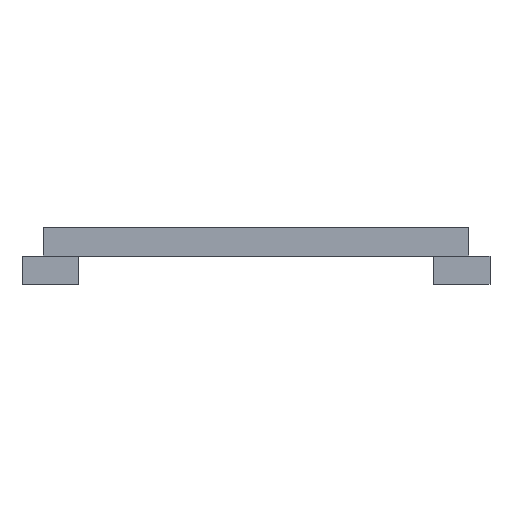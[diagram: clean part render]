
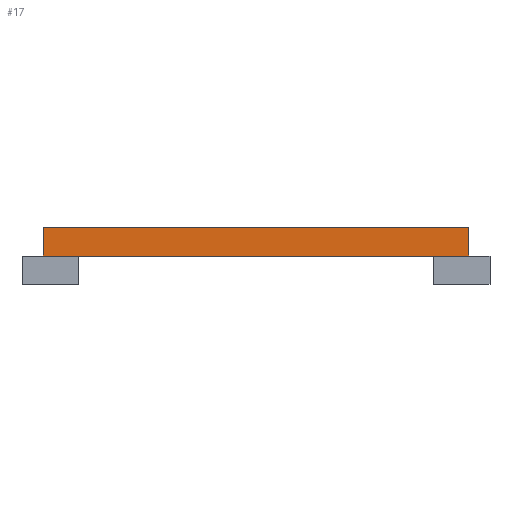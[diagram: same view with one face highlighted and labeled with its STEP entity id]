
A CAD part, left-side view. The second image highlights one B-rep face of the part: STEP entity #17.
In plain terms, the highlighted planar face has unit normal (-1, 0, 0).
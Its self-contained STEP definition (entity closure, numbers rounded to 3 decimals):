
#17 = ADVANCED_FACE('',(#18),#32,.F.);
#18 = FACE_BOUND('',#19,.F.);
#19 = EDGE_LOOP('',(#20,#55,#83,#111));
#20 = ORIENTED_EDGE('',*,*,#21,.F.);
#21 = EDGE_CURVE('',#22,#24,#26,.T.);
#22 = VERTEX_POINT('',#23);
#23 = CARTESIAN_POINT('',(0.,-60.,0.));
#24 = VERTEX_POINT('',#25);
#25 = CARTESIAN_POINT('',(0.,-60.,8.));
#26 = SURFACE_CURVE('',#27,(#31,#43),.PCURVE_S1.);
#27 = LINE('',#28,#29);
#28 = CARTESIAN_POINT('',(0.,-60.,0.));
#29 = VECTOR('',#30,1.);
#30 = DIRECTION('',(0.,0.,1.));
#31 = PCURVE('',#32,#37);
#32 = PLANE('',#33);
#33 = AXIS2_PLACEMENT_3D('',#34,#35,#36);
#34 = CARTESIAN_POINT('',(0.,-60.,0.));
#35 = DIRECTION('',(1.,0.,0.));
#36 = DIRECTION('',(0.,0.,1.));
#37 = DEFINITIONAL_REPRESENTATION('',(#38),#42);
#38 = LINE('',#39,#40);
#39 = CARTESIAN_POINT('',(0.,0.));
#40 = VECTOR('',#41,1.);
#41 = DIRECTION('',(1.,0.));
#42 = ( GEOMETRIC_REPRESENTATION_CONTEXT(2) 
PARAMETRIC_REPRESENTATION_CONTEXT() REPRESENTATION_CONTEXT('2D SPACE',''
  ) );
#43 = PCURVE('',#44,#49);
#44 = PLANE('',#45);
#45 = AXIS2_PLACEMENT_3D('',#46,#47,#48);
#46 = CARTESIAN_POINT('',(0.,-60.,0.));
#47 = DIRECTION('',(0.,1.,0.));
#48 = DIRECTION('',(0.,0.,1.));
#49 = DEFINITIONAL_REPRESENTATION('',(#50),#54);
#50 = LINE('',#51,#52);
#51 = CARTESIAN_POINT('',(0.,0.));
#52 = VECTOR('',#53,1.);
#53 = DIRECTION('',(1.,0.));
#54 = ( GEOMETRIC_REPRESENTATION_CONTEXT(2) 
PARAMETRIC_REPRESENTATION_CONTEXT() REPRESENTATION_CONTEXT('2D SPACE',''
  ) );
#55 = ORIENTED_EDGE('',*,*,#56,.T.);
#56 = EDGE_CURVE('',#22,#57,#59,.T.);
#57 = VERTEX_POINT('',#58);
#58 = CARTESIAN_POINT('',(0.,60.,0.));
#59 = SURFACE_CURVE('',#60,(#64,#71),.PCURVE_S1.);
#60 = LINE('',#61,#62);
#61 = CARTESIAN_POINT('',(0.,-60.,0.));
#62 = VECTOR('',#63,1.);
#63 = DIRECTION('',(0.,1.,0.));
#64 = PCURVE('',#32,#65);
#65 = DEFINITIONAL_REPRESENTATION('',(#66),#70);
#66 = LINE('',#67,#68);
#67 = CARTESIAN_POINT('',(0.,0.));
#68 = VECTOR('',#69,1.);
#69 = DIRECTION('',(0.,-1.));
#70 = ( GEOMETRIC_REPRESENTATION_CONTEXT(2) 
PARAMETRIC_REPRESENTATION_CONTEXT() REPRESENTATION_CONTEXT('2D SPACE',''
  ) );
#71 = PCURVE('',#72,#77);
#72 = PLANE('',#73);
#73 = AXIS2_PLACEMENT_3D('',#74,#75,#76);
#74 = CARTESIAN_POINT('',(0.,-60.,0.));
#75 = DIRECTION('',(0.,0.,1.));
#76 = DIRECTION('',(1.,0.,0.));
#77 = DEFINITIONAL_REPRESENTATION('',(#78),#82);
#78 = LINE('',#79,#80);
#79 = CARTESIAN_POINT('',(0.,0.));
#80 = VECTOR('',#81,1.);
#81 = DIRECTION('',(0.,1.));
#82 = ( GEOMETRIC_REPRESENTATION_CONTEXT(2) 
PARAMETRIC_REPRESENTATION_CONTEXT() REPRESENTATION_CONTEXT('2D SPACE',''
  ) );
#83 = ORIENTED_EDGE('',*,*,#84,.T.);
#84 = EDGE_CURVE('',#57,#85,#87,.T.);
#85 = VERTEX_POINT('',#86);
#86 = CARTESIAN_POINT('',(0.,60.,8.));
#87 = SURFACE_CURVE('',#88,(#92,#99),.PCURVE_S1.);
#88 = LINE('',#89,#90);
#89 = CARTESIAN_POINT('',(0.,60.,0.));
#90 = VECTOR('',#91,1.);
#91 = DIRECTION('',(0.,0.,1.));
#92 = PCURVE('',#32,#93);
#93 = DEFINITIONAL_REPRESENTATION('',(#94),#98);
#94 = LINE('',#95,#96);
#95 = CARTESIAN_POINT('',(0.,-120.));
#96 = VECTOR('',#97,1.);
#97 = DIRECTION('',(1.,0.));
#98 = ( GEOMETRIC_REPRESENTATION_CONTEXT(2) 
PARAMETRIC_REPRESENTATION_CONTEXT() REPRESENTATION_CONTEXT('2D SPACE',''
  ) );
#99 = PCURVE('',#100,#105);
#100 = PLANE('',#101);
#101 = AXIS2_PLACEMENT_3D('',#102,#103,#104);
#102 = CARTESIAN_POINT('',(0.,60.,0.));
#103 = DIRECTION('',(0.,1.,0.));
#104 = DIRECTION('',(0.,0.,1.));
#105 = DEFINITIONAL_REPRESENTATION('',(#106),#110);
#106 = LINE('',#107,#108);
#107 = CARTESIAN_POINT('',(0.,0.));
#108 = VECTOR('',#109,1.);
#109 = DIRECTION('',(1.,0.));
#110 = ( GEOMETRIC_REPRESENTATION_CONTEXT(2) 
PARAMETRIC_REPRESENTATION_CONTEXT() REPRESENTATION_CONTEXT('2D SPACE',''
  ) );
#111 = ORIENTED_EDGE('',*,*,#112,.F.);
#112 = EDGE_CURVE('',#24,#85,#113,.T.);
#113 = SURFACE_CURVE('',#114,(#118,#125),.PCURVE_S1.);
#114 = LINE('',#115,#116);
#115 = CARTESIAN_POINT('',(0.,-60.,8.));
#116 = VECTOR('',#117,1.);
#117 = DIRECTION('',(0.,1.,0.));
#118 = PCURVE('',#32,#119);
#119 = DEFINITIONAL_REPRESENTATION('',(#120),#124);
#120 = LINE('',#121,#122);
#121 = CARTESIAN_POINT('',(8.,0.));
#122 = VECTOR('',#123,1.);
#123 = DIRECTION('',(0.,-1.));
#124 = ( GEOMETRIC_REPRESENTATION_CONTEXT(2) 
PARAMETRIC_REPRESENTATION_CONTEXT() REPRESENTATION_CONTEXT('2D SPACE',''
  ) );
#125 = PCURVE('',#126,#131);
#126 = PLANE('',#127);
#127 = AXIS2_PLACEMENT_3D('',#128,#129,#130);
#128 = CARTESIAN_POINT('',(0.,-60.,8.));
#129 = DIRECTION('',(0.,0.,1.));
#130 = DIRECTION('',(1.,0.,0.));
#131 = DEFINITIONAL_REPRESENTATION('',(#132),#136);
#132 = LINE('',#133,#134);
#133 = CARTESIAN_POINT('',(0.,0.));
#134 = VECTOR('',#135,1.);
#135 = DIRECTION('',(0.,1.));
#136 = ( GEOMETRIC_REPRESENTATION_CONTEXT(2) 
PARAMETRIC_REPRESENTATION_CONTEXT() REPRESENTATION_CONTEXT('2D SPACE',''
  ) );
